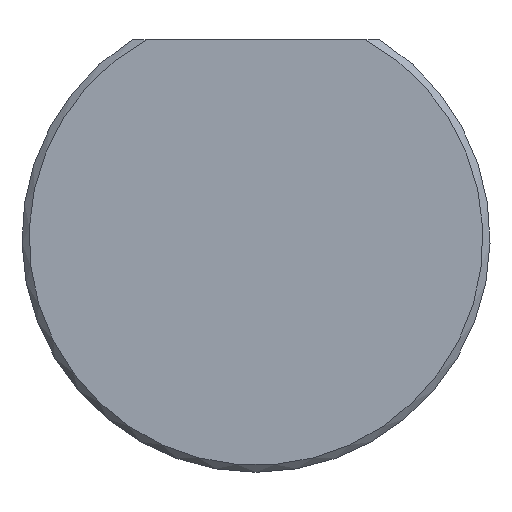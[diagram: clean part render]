
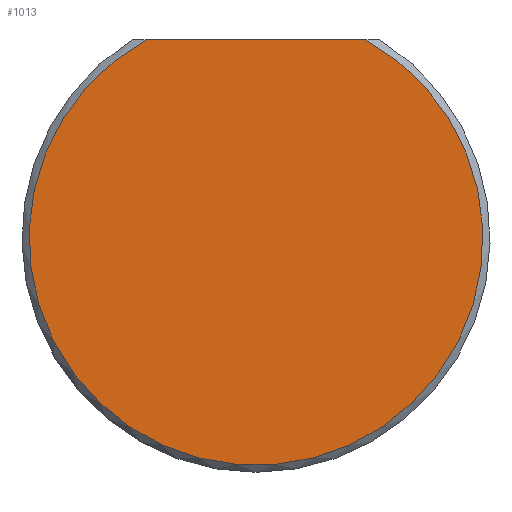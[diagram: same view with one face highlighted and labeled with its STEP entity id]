
A CAD part, front view. The second image highlights one B-rep face of the part: STEP entity #1013.
In plain terms, the highlighted planar face has unit normal (0, -1, 0).
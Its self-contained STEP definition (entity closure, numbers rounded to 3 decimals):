
#26 = CARTESIAN_POINT ( 'NONE',  ( 0., 0., 0. ) ) ;
#65 = PLANE ( 'NONE',  #90 ) ;
#81 = EDGE_CURVE ( 'NONE', #113, #321, #87, .T. ) ;
#87 = CIRCLE ( 'NONE', #1355, 8. ) ;
#90 = AXIS2_PLACEMENT_3D ( 'NONE', #1200, #432, #567 ) ;
#113 = VERTEX_POINT ( 'NONE', #267 ) ;
#201 = CARTESIAN_POINT ( 'NONE',  ( 0., 0., 7. ) ) ;
#267 = CARTESIAN_POINT ( 'NONE',  ( -3.873, 0., 7. ) ) ;
#321 = VERTEX_POINT ( 'NONE', #805 ) ;
#380 = ORIENTED_EDGE ( 'NONE', *, *, #1660, .T. ) ;
#393 = DIRECTION ( 'NONE',  ( 0., 0., 1. ) ) ;
#432 = DIRECTION ( 'NONE',  ( 0., 1., 0. ) ) ;
#436 = DIRECTION ( 'NONE',  ( -1., 0., 0. ) ) ;
#539 = DIRECTION ( 'NONE',  ( 0., -1., 0. ) ) ;
#567 = DIRECTION ( 'NONE',  ( 0., 0., 1. ) ) ;
#805 = CARTESIAN_POINT ( 'NONE',  ( 3.873, 0., 7. ) ) ;
#984 = EDGE_LOOP ( 'NONE', ( #380, #1594 ) ) ;
#994 = VECTOR ( 'NONE', #436, 1000. ) ;
#1013 = ADVANCED_FACE ( 'NONE', ( #1212 ), #65, .F. ) ;
#1200 = CARTESIAN_POINT ( 'NONE',  ( 0., 0., 0. ) ) ;
#1212 = FACE_OUTER_BOUND ( 'NONE', #984, .T. ) ;
#1336 = LINE ( 'NONE', #201, #994 ) ;
#1355 = AXIS2_PLACEMENT_3D ( 'NONE', #26, #539, #393 ) ;
#1594 = ORIENTED_EDGE ( 'NONE', *, *, #81, .T. ) ;
#1660 = EDGE_CURVE ( 'NONE', #321, #113, #1336, .T. ) ;
